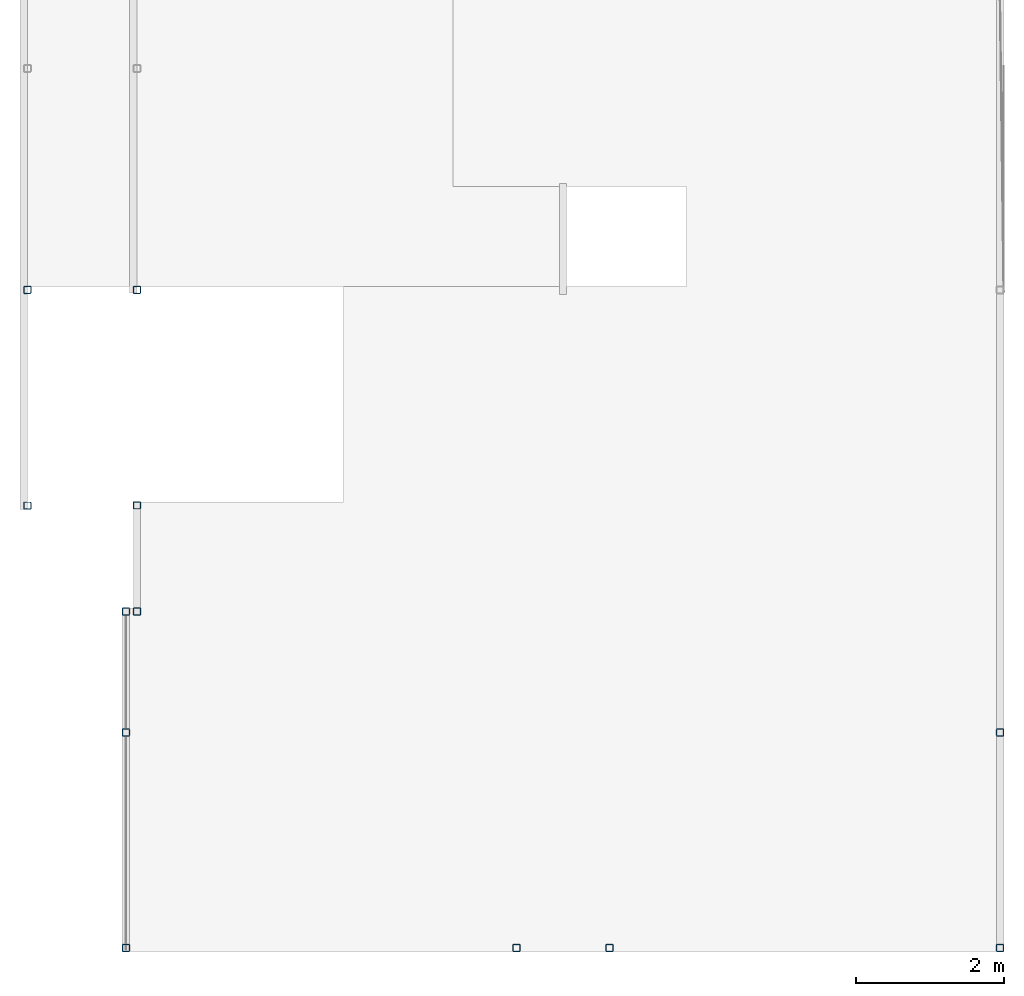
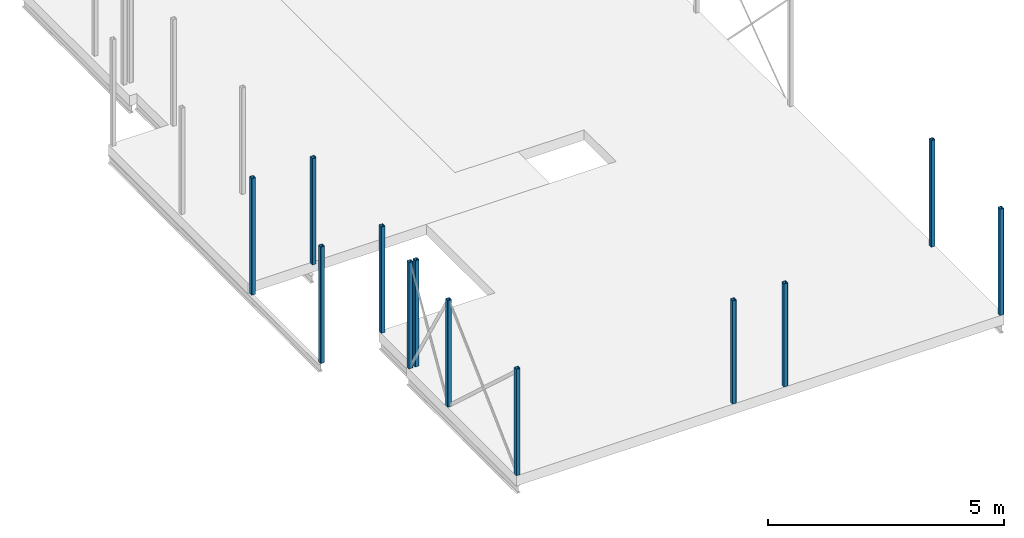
# One storey, part 1 of 4: 12 columns.
"""IFC2X3 building model written with IfcOpenShell, lengths in millimetres."""

import ifcopenshell
import ifcopenshell.guid

model = None  # the IFC model being written
_history = None  # IfcOwnerHistory: only IFC2X3 demands one
_inside = {}  # id of a spatial element -> (the spatial element, [elements in it])
_under = {}  # id of a project, library or spatial element -> (it, [spatial elements below it])
_declared = {}  # id of a project -> (the project, [libraries it declares])
_typed = {}  # id of a type object -> (the type object, [elements of that type])
_made_of = {}  # id of a material, layer set ... -> (it, [elements and type objects made of it])


def new_model(schema):
    """Start an empty IFC model of exactly this schema.

    Asked for "IFC4X3", IfcOpenShell would pick the latest addendum, in which some entities
    have other attributes; the version numbers below select the first issue.
    IFC2X3 requires an IfcOwnerHistory on every rooted entity: one is made here for all.
    """
    global model, _history
    if schema == "IFC4X3":
        model = ifcopenshell.file(schema_version=(4, 3, 0, 0))
    else:
        model = ifcopenshell.file(schema=schema)
    _inside.clear()
    _under.clear()
    _declared.clear()
    _typed.clear()
    _made_of.clear()
    _history = None
    if model.schema == "IFC2X3":
        org = make("IfcOrganization", Name="unknown")
        user = make(
            "IfcPersonAndOrganization",
            ThePerson=make("IfcPerson", FamilyName="unknown"),
            TheOrganization=org,
        )
        app = make(
            "IfcApplication",
            ApplicationDeveloper=org,
            Version="unknown",
            ApplicationFullName="unknown",
            ApplicationIdentifier="unknown",
        )
        _history = make(
            "IfcOwnerHistory",
            OwningUser=user,
            OwningApplication=app,
            ChangeAction="ADDED",
            CreationDate=0,
        )
    return model


def make(cls, **values):
    """One entity of the class cls with the attributes given. An attribute that is None is left unset."""
    return model.create_entity(
        cls, **{name: value for name, value in values.items() if value is not None}
    )


def entity(cls, *values):
    """Any entity or typed value of the class cls, its attributes in the order of the schema. None: left unset."""
    e = model.create_entity(cls)
    for i, value in enumerate(values):
        if value is not None:
            e[i] = value
    return e


def rooted(cls, **values):
    """An entity with a GlobalId (a new one), such as an element, a storey or a relation."""
    return make(cls, GlobalId=ifcopenshell.guid.new(), OwnerHistory=_history, **values)


def si_unit(unit_type, name, prefix=None):
    """IfcSIUnit, for example si_unit("LENGTHUNIT", "METRE", prefix="MILLI")."""
    return make("IfcSIUnit", UnitType=unit_type, Prefix=prefix, Name=name)


def converted_unit(unit_type, name, factor, base, dimensions=None, offset=None):
    """IfcConversionBasedUnit, such as the inch: factor (a typed value) times the base unit."""
    return make(
        "IfcConversionBasedUnit"
        if offset is None
        else "IfcConversionBasedUnitWithOffset",
        ConversionOffset=offset,
        Dimensions=None
        if dimensions is None
        else entity("IfcDimensionalExponents", *dimensions),
        UnitType=unit_type,
        Name=name,
        ConversionFactor=make(
            "IfcMeasureWithUnit", ValueComponent=factor, UnitComponent=base
        ),
    )


def derived_unit(unit_type, elements):
    """IfcDerivedUnit: a product of units, each with its exponent."""
    return make(
        "IfcDerivedUnit",
        Elements=[
            make("IfcDerivedUnitElement", Unit=unit, Exponent=power)
            for unit, power in elements
        ],
        UnitType=unit_type,
    )


def assignment(units):
    """IfcUnitAssignment: the units of a project."""
    return None if units is None else make("IfcUnitAssignment", Units=units)


def point(xyz):
    """IfcCartesianPoint."""
    return None if xyz is None else make("IfcCartesianPoint", Coordinates=xyz)


def direction(xyz):
    """IfcDirection."""
    return None if xyz is None else make("IfcDirection", DirectionRatios=xyz)


def frame(location, z_axis=None, x_axis=None):
    """IfcAxis2Placement3D, a coordinate frame: its origin and axes. An axis left out is left unset."""
    return make(
        "IfcAxis2Placement3D",
        Location=point(location),
        Axis=direction(z_axis),
        RefDirection=direction(x_axis),
    )


def frame_2d(location, x_axis=None):
    """IfcAxis2Placement2D, a coordinate frame in the plane: its origin and x axis."""
    return make(
        "IfcAxis2Placement2D", Location=point(location), RefDirection=direction(x_axis)
    )


def origin():
    """The frame at (0, 0, 0) with its axes left unset."""
    return frame((0.0, 0.0, 0.0))


def place(relative_to, where):
    """IfcLocalPlacement: puts the frame where relative to a parent placement (None: the world)."""
    return make(
        "IfcLocalPlacement", PlacementRelTo=relative_to, RelativePlacement=where
    )


def context(
    kind, dimensions, precision=None, world=None, true_north=None, identifier=None
):
    """IfcGeometricRepresentationContext, for example the 3D "Model" context."""
    return make(
        "IfcGeometricRepresentationContext",
        ContextIdentifier=identifier,
        ContextType=kind,
        CoordinateSpaceDimension=dimensions,
        Precision=precision,
        WorldCoordinateSystem=world,
        TrueNorth=true_north,
    )


def subcontext(parent, identifier, kind, view, scale=None):
    """IfcGeometricRepresentationSubContext, for example "Body" below "Model"."""
    return make(
        "IfcGeometricRepresentationSubContext",
        ContextIdentifier=identifier,
        ContextType=kind,
        ParentContext=parent,
        TargetScale=scale,
        TargetView=view,
    )


def project(units=None, contexts=None):
    """IfcProject with its units and contexts."""
    return rooted(
        "IfcProject",
        Name="project",
        RepresentationContexts=contexts,
        UnitsInContext=assignment(units),
    )


def spatial(cls, under=None, at=None, **own):
    """A site, building, storey or space (cls), placed at a placement, below another one or the project."""
    s = rooted(cls, ObjectPlacement=at, **own)
    if under is not None:
        _under.setdefault(under.id(), (under, []))[1].append(s)
    return s


def polyline(points):
    """IfcPolyline through the points."""
    return make("IfcPolyline", Points=[point(p) for p in points])


def circle_curve(where, radius):
    """IfcCircle in the frame where."""
    return make("IfcCircle", Position=where, Radius=radius)


def parameter(value):
    """IfcParameterValue: where a trimmed curve begins or ends, as a parameter of its basis curve."""
    return model.create_entity("IfcParameterValue", value)


def trimmed(basis, trim1, trim2, sense, master):
    """IfcTrimmedCurve: the piece of a basis curve between two trims."""
    return make(
        "IfcTrimmedCurve",
        BasisCurve=basis,
        Trim1=trim1,
        Trim2=trim2,
        SenseAgreement=sense,
        MasterRepresentation=master,
    )


def segment(curve, same_sense, transition):
    """IfcCompositeCurveSegment."""
    return make(
        "IfcCompositeCurveSegment",
        Transition=transition,
        SameSense=same_sense,
        ParentCurve=curve,
    )


def composite_curve(segments, self_intersect=None):
    """IfcCompositeCurve: segments joined end to end."""
    return make("IfcCompositeCurve", Segments=segments, SelfIntersect=self_intersect)


def outline(outer, holes=None, kind="AREA"):
    """IfcArbitraryClosedProfileDef: a profile drawn as a closed curve; with holes, ...WithVoids."""
    if holes is None:
        return make("IfcArbitraryClosedProfileDef", ProfileType=kind, OuterCurve=outer)
    return make(
        "IfcArbitraryProfileDefWithVoids",
        ProfileType=kind,
        OuterCurve=outer,
        InnerCurves=holes,
    )


def extrude(swept, where, along, depth):
    """IfcExtrudedAreaSolid: the profile swept, set in the frame where, extruded along a direction by depth."""
    return make(
        "IfcExtrudedAreaSolid",
        SweptArea=swept,
        Position=where,
        ExtrudedDirection=direction(along),
        Depth=depth,
    )


def shape(context_of_items, identifier, shape_type, items):
    """IfcShapeRepresentation: the items that make up one representation, for example the "Body"."""
    return make(
        "IfcShapeRepresentation",
        ContextOfItems=context_of_items,
        RepresentationIdentifier=identifier,
        RepresentationType=shape_type,
        Items=items,
    )


def source(mapping_origin, context_of_items, identifier, shape_type, items):
    """IfcRepresentationMap: a shape defined once, which mapped items show again and again."""
    return make(
        "IfcRepresentationMap",
        MappingOrigin=mapping_origin,
        MappedRepresentation=shape(context_of_items, identifier, shape_type, items),
    )


def transform(
    local_origin,
    x_axis=None,
    y_axis=None,
    z_axis=None,
    scale=None,
    scale2=None,
    scale3=None,
    uniform=True,
):
    """IfcCartesianTransformationOperator3D, or its non-uniform kind. x_axis, y_axis, z_axis: its Axis1, 2, 3."""
    if uniform:
        return make(
            "IfcCartesianTransformationOperator3D",
            Axis1=direction(x_axis),
            Axis2=direction(y_axis),
            LocalOrigin=point(local_origin),
            Scale=scale,
            Axis3=direction(z_axis),
        )
    return make(
        "IfcCartesianTransformationOperator3DnonUniform",
        Axis1=direction(x_axis),
        Axis2=direction(y_axis),
        LocalOrigin=point(local_origin),
        Scale=scale,
        Axis3=direction(z_axis),
        Scale2=scale2,
        Scale3=scale3,
    )


def mapped(mapping_source, mapping_target):
    """IfcMappedItem: shows the shape of a source again, moved by a transform."""
    return make(
        "IfcMappedItem", MappingSource=mapping_source, MappingTarget=mapping_target
    )


def material(Name=None, Category=None):
    """IfcMaterial."""
    return make("IfcMaterial", Name=Name, Category=Category)


def made_of(thing, what):
    """Note that an element or type object is made of a material, layer set ...; save() writes the relation."""
    if what is not None:
        _made_of.setdefault(what.id(), (what, []))[1].append(thing)
    return thing


def type_object(cls, material=None, **own):
    """A type object (cls), such as IfcWallType, which elements share."""
    return made_of(rooted(cls, **own), material)


def type_shapes(of_type, sources):
    """Give a type object the sources (RepresentationMaps) that its elements show as mapped items."""
    of_type.RepresentationMaps = sources


def element(
    cls,
    number,
    at=None,
    inside=None,
    cuts=None,
    type_object=None,
    material=None,
    context=None,
    identifier="Body",
    shape_type=None,
    held_by="IfcProductDefinitionShape",
    body=None,
    shapes=None,
    **own,
):
    """One element of the class cls, such as IfcWall. Its Tag is "e" and its number.

    at: its placement. inside: the storey or other place that contains it. cuts: it is an
    opening in that element (IfcRelVoidsElement). A single representation is given by context,
    identifier, shape_type and body (its items); several are given by shapes. held_by: the class
    of the entity that holds the representations. save() writes the other relations.
    """
    e = rooted(cls, Tag="e%d" % number, ObjectPlacement=at, **own)
    if body is not None:
        shapes = [shape(context, identifier, shape_type, body)]
    if shapes is not None:
        e.Representation = make(held_by, Representations=shapes)
    if inside is not None:
        _inside.setdefault(inside.id(), (inside, []))[1].append(e)
    if cuts is not None:
        rooted(
            "IfcRelVoidsElement", RelatingBuildingElement=cuts, RelatedOpeningElement=e
        )
    if type_object is not None:
        _typed.setdefault(type_object.id(), (type_object, []))[1].append(e)
    return made_of(e, material)


def aggregate(whole, parts):
    """IfcRelAggregates: a whole, such as a stair, and the parts it consists of."""
    return rooted("IfcRelAggregates", RelatingObject=whole, RelatedObjects=parts)


def save(model, path):
    """Write the relations noted so far, then the file.

    IfcRelAggregates (storeys below a building ...), IfcRelContainedInSpatialStructure (elements
    in a storey), IfcRelDefinesByType, IfcRelAssociatesMaterial and IfcRelDeclares: one each for
    every whole, place, type object, material and project.
    """
    for whole, parts in _under.values():
        aggregate(whole, parts)
    for where, things in _inside.values():
        rooted(
            "IfcRelContainedInSpatialStructure",
            RelatedElements=things,
            RelatingStructure=where,
        )
    for kind, things in _typed.values():
        rooted("IfcRelDefinesByType", RelatedObjects=things, RelatingType=kind)
    for what, things in _made_of.values():
        rooted("IfcRelAssociatesMaterial", RelatedObjects=things, RelatingMaterial=what)
    for by, libraries in _declared.values():
        rooted("IfcRelDeclares", RelatingContext=by, RelatedDefinitions=libraries)
    model.write(path)


model = new_model("IFC2X3")

# Units and contexts
model_context = context("Model", 3, precision=0.01, world=origin(), true_north=direction((6.12303176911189e-17, 1.0)))
body_context = subcontext(model_context, "Body", "Model", "MODEL_VIEW")
ifc_project = project(units=[si_unit("LENGTHUNIT", "METRE", prefix="MILLI"), si_unit("AREAUNIT", "SQUARE_METRE"), si_unit("VOLUMEUNIT", "CUBIC_METRE"), converted_unit("PLANEANGLEUNIT", "DEGREE", entity("IfcRatioMeasure", 0.0174532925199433), si_unit("PLANEANGLEUNIT", "RADIAN"), dimensions=[0, 0, 0, 0, 0, 0, 0]), si_unit("MASSUNIT", "GRAM", prefix="KILO"), derived_unit("MASSDENSITYUNIT", [(si_unit("MASSUNIT", "GRAM", prefix="KILO"), 1), (si_unit("LENGTHUNIT", "METRE"), -3)]), si_unit("TIMEUNIT", "SECOND"), si_unit("FREQUENCYUNIT", "HERTZ"), si_unit("THERMODYNAMICTEMPERATUREUNIT", "DEGREE_CELSIUS"), derived_unit("THERMALTRANSMITTANCEUNIT", [(si_unit("MASSUNIT", "GRAM", prefix="KILO"), 1), (si_unit("THERMODYNAMICTEMPERATUREUNIT", "KELVIN"), -1), (si_unit("TIMEUNIT", "SECOND"), -3)]), derived_unit("VOLUMETRICFLOWRATEUNIT", [(si_unit("LENGTHUNIT", "METRE"), 3), (si_unit("TIMEUNIT", "SECOND"), -1)]), si_unit("ELECTRICCURRENTUNIT", "AMPERE"), si_unit("ELECTRICVOLTAGEUNIT", "VOLT"), si_unit("POWERUNIT", "WATT"), si_unit("FORCEUNIT", "NEWTON", prefix="KILO"), si_unit("ILLUMINANCEUNIT", "LUX"), si_unit("LUMINOUSFLUXUNIT", "LUMEN"), si_unit("LUMINOUSINTENSITYUNIT", "CANDELA"), derived_unit("USERDEFINED", [(si_unit("MASSUNIT", "GRAM", prefix="KILO"), -1), (si_unit("LENGTHUNIT", "METRE"), -2), (si_unit("TIMEUNIT", "SECOND"), 3), (si_unit("LUMINOUSFLUXUNIT", "LUMEN"), 1)]), derived_unit("LINEARVELOCITYUNIT", [(si_unit("LENGTHUNIT", "METRE"), 1), (si_unit("TIMEUNIT", "SECOND"), -1)]), si_unit("PRESSUREUNIT", "PASCAL"), derived_unit("USERDEFINED", [(si_unit("LENGTHUNIT", "METRE"), -2), (si_unit("MASSUNIT", "GRAM", prefix="KILO"), 1), (si_unit("TIMEUNIT", "SECOND"), -2)])], contexts=[model_context])

# Site, building, storey
site_placement = place(None, frame((0.0, 0.0, 101000.0)))
site = spatial("IfcSite", under=ifc_project, at=site_placement, Name="Default", CompositionType="ELEMENT")
building_placement = place(site_placement, origin())
building = spatial("IfcBuilding", under=site, at=building_placement, CompositionType="ELEMENT")
storey_placement = place(building_placement, frame((0.0, 0.0, 3150.0)))
storey = spatial("IfcBuildingStorey", under=building, at=storey_placement, Name="02", CompositionType="ELEMENT", Elevation=3149.9999999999)

# Columns
ifc_material = material(Name="S355")
column_type_1 = type_object("IfcColumnType", Name="HUP 100x100x6.3", PredefinedType="COLUMN", material=ifc_material)
shared_shape_1 = source(origin(), body_context, "Body", "SweptSolid", [
    extrude(outline(composite_curve([segment(polyline([(-37.4000000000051, -50.0), (37.4000000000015, -50.0)]), True, "CONTINUOUS"), segment(trimmed(circle_curve(frame_2d((37.4000000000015, -37.3999999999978), x_axis=(-1.0, 0.0)), 12.6000000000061), [parameter(90.0000000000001)], [parameter(180.0)], True, "PARAMETER"), True, "CONTINUOUS"), segment(polyline([(50.0, -37.4000000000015), (50.0, 37.3999999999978)]), True, "CONTINUOUS"), segment(trimmed(circle_curve(frame_2d((37.4000000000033, 37.3999999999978), x_axis=(-1.0, 0.0)), 12.6000000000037), [parameter(180.0)], [parameter(270.0)], True, "PARAMETER"), True, "CONTINUOUS"), segment(polyline([(37.4000000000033, 50.0), (-37.4000000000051, 50.0)]), True, "CONTINUOUS"), segment(trimmed(circle_curve(frame_2d((-37.4000000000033, 37.4000000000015), x_axis=(-1.0, 0.0)), 12.6000000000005), [parameter(270.0)], [parameter(360.0)], True, "PARAMETER"), True, "CONTINUOUS"), segment(polyline([(-50.0, 37.3999999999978), (-50.0, -37.4000000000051)]), True, "CONTINUOUS"), segment(trimmed(circle_curve(frame_2d((-37.4000000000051, -37.4000000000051), x_axis=(-1.0, 0.0)), 12.5999999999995), [parameter(360.0)], [parameter(89.9999999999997)], True, "PARAMETER"), True, "CONTINUOUS")], self_intersect=False), holes=[composite_curve([segment(trimmed(circle_curve(frame_2d((-37.4000000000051, -37.4000000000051), x_axis=(-1.0, 0.0)), 6.2999999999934), [parameter(0.0)], [parameter(90.0)], True, "PARAMETER"), False, "CONTINUOUS"), segment(polyline([(-43.7000000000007, -37.4000000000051), (-43.7000000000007, 37.4000000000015)]), True, "CONTINUOUS"), segment(trimmed(circle_curve(frame_2d((-37.4000000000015, 37.4000000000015), x_axis=(-1.0, 0.0)), 6.29999999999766), [parameter(270.0)], [parameter(360.0)], True, "PARAMETER"), False, "CONTINUOUS"), segment(polyline([(-37.4000000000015, 43.6999999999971), (37.3999999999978, 43.6999999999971)]), True, "CONTINUOUS"), segment(trimmed(circle_curve(frame_2d((37.3999999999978, 37.3999999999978), x_axis=(-1.0, 0.0)), 6.30000000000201), [parameter(180.0)], [parameter(270.0)], True, "PARAMETER"), False, "CONTINUOUS"), segment(polyline([(43.7000000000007, 37.3999999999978), (43.7000000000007, -37.4000000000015)]), True, "CONTINUOUS"), segment(trimmed(circle_curve(frame_2d((37.4000000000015, -37.3999999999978), x_axis=(-1.0, 0.0)), 6.30000000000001), [parameter(90.0000000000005)], [parameter(180.0)], True, "PARAMETER"), False, "CONTINUOUS"), segment(polyline([(37.4000000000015, -43.7000000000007), (-37.4000000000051, -43.7000000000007)]), True, "CONTINUOUS")], self_intersect=False)]), frame((11261.2644969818, 23497.9507529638, 3150.0), z_axis=(0.0, 0.0, 1.0), x_axis=(-1.0, 0.0, 0.0)), (0.0, 0.0, 1.0), 2755.0),
])
type_shapes(column_type_1, [shared_shape_1])
column_1_placement = place(storey_placement, frame((0.0, 0.0, -3150.0)))
element("IfcColumn", 1, at=column_1_placement, inside=storey, type_object=column_type_1, material=ifc_material, Name="Søyle HUP:HUP 100x100x6.3", ObjectType="HUP 100x100x6.3", context=body_context, shape_type="MappedRepresentation", body=[
    mapped(shared_shape_1, transform((0.0, 0.0, 0.0), scale=1.0)),
])
column_type_2 = type_object("IfcColumnType", Name="HUP 100x100x6.3", PredefinedType="COLUMN", material=ifc_material)
shared_shape_2 = source(origin(), body_context, "Body", "SweptSolid", [
    extrude(outline(composite_curve([segment(polyline([(-37.4000000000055, -50.0), (37.4000000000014, -50.0)]), True, "CONTINUOUS"), segment(trimmed(circle_curve(frame_2d((37.4000000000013, -37.3999999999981), x_axis=(-1.0, 0.0)), 12.6000000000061), [parameter(90.0000000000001)], [parameter(180.0)], True, "PARAMETER"), True, "CONTINUOUS"), segment(polyline([(50.0, -37.3999999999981), (50.0, 37.4000000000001)]), True, "CONTINUOUS"), segment(trimmed(circle_curve(frame_2d((37.4000000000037, 37.4000000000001), x_axis=(-1.0, 0.0)), 12.6000000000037), [parameter(180.0)], [parameter(270.0)], True, "PARAMETER"), True, "CONTINUOUS"), segment(polyline([(37.4000000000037, 50.0), (-37.4000000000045, 50.0)]), True, "CONTINUOUS"), segment(trimmed(circle_curve(frame_2d((-37.4000000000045, 37.4000000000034), x_axis=(-1.0, 0.0)), 12.6000000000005), [parameter(270.0)], [parameter(360.0)], True, "PARAMETER"), True, "CONTINUOUS"), segment(polyline([(-50.0, 37.4000000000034), (-50.0, -37.4000000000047)]), True, "CONTINUOUS"), segment(trimmed(circle_curve(frame_2d((-37.4000000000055, -37.4000000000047), x_axis=(-1.0, 0.0)), 12.5999999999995), [parameter(360.0)], [parameter(89.9999999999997)], True, "PARAMETER"), True, "CONTINUOUS")], self_intersect=False), holes=[composite_curve([segment(trimmed(circle_curve(frame_2d((-37.4000000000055, -37.4000000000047), x_axis=(-1.0, 0.0)), 6.2999999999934), [parameter(0.0)], [parameter(90.0)], True, "PARAMETER"), False, "CONTINUOUS"), segment(polyline([(-43.6999999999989, -37.4000000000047), (-43.6999999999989, 37.4000000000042)]), True, "CONTINUOUS"), segment(trimmed(circle_curve(frame_2d((-37.4000000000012, 37.4000000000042), x_axis=(-1.0, 0.0)), 6.29999999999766), [parameter(270.0)], [parameter(360.0)], True, "PARAMETER"), False, "CONTINUOUS"), segment(polyline([(-37.4000000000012, 43.7000000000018), (37.3999999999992, 43.7000000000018)]), True, "CONTINUOUS"), segment(trimmed(circle_curve(frame_2d((37.3999999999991, 37.3999999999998), x_axis=(-1.0, 0.0)), 6.30000000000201), [parameter(180.0)], [parameter(270.0)], True, "PARAMETER"), False, "CONTINUOUS"), segment(polyline([(43.7000000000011, 37.3999999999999), (43.7000000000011, -37.3999999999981)]), True, "CONTINUOUS"), segment(trimmed(circle_curve(frame_2d((37.4000000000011, -37.3999999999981), x_axis=(-1.0, 0.0)), 6.30000000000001), [parameter(90.0000000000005)], [parameter(180.0)], True, "PARAMETER"), False, "CONTINUOUS"), segment(polyline([(37.4000000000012, -43.6999999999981), (-37.4000000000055, -43.6999999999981)]), True, "CONTINUOUS")], self_intersect=False)]), frame((0.0, 0.0, 3150.0), z_axis=(0.0, 0.0, 1.0), x_axis=(-1.0, 0.0, 0.0)), (0.0, 0.0, 1.0), 2765.0),
])
type_shapes(column_type_2, [shared_shape_2])
column_2_placement = place(storey_placement, frame((11261.2644969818, 26417.9507529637, -3150.0)))
element("IfcColumn", 2, at=column_2_placement, inside=storey, type_object=column_type_2, material=ifc_material, Name="Søyle HUP:HUP 100x100x6.3", ObjectType="HUP 100x100x6.3", context=body_context, shape_type="MappedRepresentation", body=[
    mapped(shared_shape_2, transform((0.0, 0.0, 0.0), scale=1.0)),
])
column_type_3 = type_object("IfcColumnType", Name="HUP 100x100x6.3", PredefinedType="COLUMN", material=ifc_material)
shared_shape_3 = source(origin(), body_context, "Body", "SweptSolid", [
    extrude(outline(composite_curve([segment(polyline([(-37.4000000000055, -50.0), (37.4000000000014, -50.0)]), True, "CONTINUOUS"), segment(trimmed(circle_curve(frame_2d((37.4000000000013, -37.3999999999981), x_axis=(-1.0, 0.0)), 12.6000000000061), [parameter(90.0000000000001)], [parameter(180.0)], True, "PARAMETER"), True, "CONTINUOUS"), segment(polyline([(50.0, -37.3999999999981), (50.0, 37.4000000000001)]), True, "CONTINUOUS"), segment(trimmed(circle_curve(frame_2d((37.4000000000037, 37.4000000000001), x_axis=(-1.0, 0.0)), 12.6000000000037), [parameter(180.0)], [parameter(270.0)], True, "PARAMETER"), True, "CONTINUOUS"), segment(polyline([(37.4000000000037, 50.0), (-37.4000000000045, 50.0)]), True, "CONTINUOUS"), segment(trimmed(circle_curve(frame_2d((-37.4000000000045, 37.4000000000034), x_axis=(-1.0, 0.0)), 12.6000000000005), [parameter(270.0)], [parameter(360.0)], True, "PARAMETER"), True, "CONTINUOUS"), segment(polyline([(-50.0, 37.4000000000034), (-50.0, -37.4000000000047)]), True, "CONTINUOUS"), segment(trimmed(circle_curve(frame_2d((-37.4000000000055, -37.4000000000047), x_axis=(-1.0, 0.0)), 12.5999999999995), [parameter(360.0)], [parameter(89.9999999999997)], True, "PARAMETER"), True, "CONTINUOUS")], self_intersect=False), holes=[composite_curve([segment(trimmed(circle_curve(frame_2d((-37.4000000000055, -37.4000000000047), x_axis=(-1.0, 0.0)), 6.2999999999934), [parameter(0.0)], [parameter(90.0)], True, "PARAMETER"), False, "CONTINUOUS"), segment(polyline([(-43.6999999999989, -37.4000000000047), (-43.6999999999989, 37.4000000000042)]), True, "CONTINUOUS"), segment(trimmed(circle_curve(frame_2d((-37.4000000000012, 37.4000000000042), x_axis=(-1.0, 0.0)), 6.29999999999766), [parameter(270.0)], [parameter(360.0)], True, "PARAMETER"), False, "CONTINUOUS"), segment(polyline([(-37.4000000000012, 43.7000000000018), (37.3999999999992, 43.7000000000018)]), True, "CONTINUOUS"), segment(trimmed(circle_curve(frame_2d((37.3999999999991, 37.3999999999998), x_axis=(-1.0, 0.0)), 6.30000000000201), [parameter(180.0)], [parameter(270.0)], True, "PARAMETER"), False, "CONTINUOUS"), segment(polyline([(43.7000000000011, 37.3999999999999), (43.7000000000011, -37.3999999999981)]), True, "CONTINUOUS"), segment(trimmed(circle_curve(frame_2d((37.4000000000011, -37.3999999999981), x_axis=(-1.0, 0.0)), 6.30000000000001), [parameter(90.0000000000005)], [parameter(180.0)], True, "PARAMETER"), False, "CONTINUOUS"), segment(polyline([(37.4000000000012, -43.6999999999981), (-37.4000000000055, -43.6999999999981)]), True, "CONTINUOUS")], self_intersect=False)]), frame((0.0, 0.0, 3150.0), z_axis=(0.0, 0.0, 1.0), x_axis=(-1.0, 0.0, 0.0)), (0.0, 0.0, 1.0), 2755.0),
])
type_shapes(column_type_3, [shared_shape_3])
for number, where, name in (
    (3, (11261.2644969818, 28058.4336358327, -3150.0), "Søyle HUP:HUP 100x100x6.3"),
    (4, (11411.2644969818, 28058.4336358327, -3150.0), "Søyle HUP:HUP 100x100x6.3"),
    (5, (11411.2644969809, 32417.9507529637, -3150.0), "Søyle HUP:HUP 100x100x6.3"),
    (6, (11411.2644969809, 29497.9507529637, -3150.0), "Søyle HUP:HUP 100x100x6.3"),
):
    element("IfcColumn", number, at=place(storey_placement, frame(where)), inside=storey, type_object=column_type_3, material=ifc_material, Name=name, ObjectType="HUP 100x100x6.3", context=body_context, shape_type="MappedRepresentation", body=[
        mapped(shared_shape_3, transform((0.0, 0.0, 0.0), scale=1.0)),
    ])
column_type_4 = type_object("IfcColumnType", Name="HUP 100x100x6.3", PredefinedType="COLUMN", material=ifc_material)
shared_shape_4 = source(origin(), body_context, "Body", "SweptSolid", [
    extrude(outline(composite_curve([segment(polyline([(-37.4000000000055, -50.0), (37.4000000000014, -50.0)]), True, "CONTINUOUS"), segment(trimmed(circle_curve(frame_2d((37.4000000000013, -37.3999999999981), x_axis=(-1.0, 0.0)), 12.6000000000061), [parameter(90.0000000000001)], [parameter(180.0)], True, "PARAMETER"), True, "CONTINUOUS"), segment(polyline([(50.0, -37.3999999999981), (50.0, 37.4000000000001)]), True, "CONTINUOUS"), segment(trimmed(circle_curve(frame_2d((37.4000000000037, 37.4000000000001), x_axis=(-1.0, 0.0)), 12.6000000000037), [parameter(180.0)], [parameter(270.0)], True, "PARAMETER"), True, "CONTINUOUS"), segment(polyline([(37.4000000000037, 50.0), (-37.4000000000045, 50.0)]), True, "CONTINUOUS"), segment(trimmed(circle_curve(frame_2d((-37.4000000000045, 37.4000000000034), x_axis=(-1.0, 0.0)), 12.6000000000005), [parameter(270.0)], [parameter(360.0)], True, "PARAMETER"), True, "CONTINUOUS"), segment(polyline([(-50.0, 37.4000000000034), (-50.0, -37.4000000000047)]), True, "CONTINUOUS"), segment(trimmed(circle_curve(frame_2d((-37.4000000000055, -37.4000000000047), x_axis=(-1.0, 0.0)), 12.5999999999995), [parameter(360.0)], [parameter(89.9999999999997)], True, "PARAMETER"), True, "CONTINUOUS")], self_intersect=False), holes=[composite_curve([segment(trimmed(circle_curve(frame_2d((-37.4000000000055, -37.4000000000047), x_axis=(-1.0, 0.0)), 6.2999999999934), [parameter(0.0)], [parameter(90.0)], True, "PARAMETER"), False, "CONTINUOUS"), segment(polyline([(-43.6999999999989, -37.4000000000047), (-43.6999999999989, 37.4000000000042)]), True, "CONTINUOUS"), segment(trimmed(circle_curve(frame_2d((-37.4000000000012, 37.4000000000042), x_axis=(-1.0, 0.0)), 6.29999999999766), [parameter(270.0)], [parameter(360.0)], True, "PARAMETER"), False, "CONTINUOUS"), segment(polyline([(-37.4000000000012, 43.7000000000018), (37.3999999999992, 43.7000000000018)]), True, "CONTINUOUS"), segment(trimmed(circle_curve(frame_2d((37.3999999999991, 37.3999999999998), x_axis=(-1.0, 0.0)), 6.30000000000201), [parameter(180.0)], [parameter(270.0)], True, "PARAMETER"), False, "CONTINUOUS"), segment(polyline([(43.7000000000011, 37.3999999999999), (43.7000000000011, -37.3999999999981)]), True, "CONTINUOUS"), segment(trimmed(circle_curve(frame_2d((37.4000000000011, -37.3999999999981), x_axis=(-1.0, 0.0)), 6.30000000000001), [parameter(90.0000000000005)], [parameter(180.0)], True, "PARAMETER"), False, "CONTINUOUS"), segment(polyline([(37.4000000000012, -43.6999999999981), (-37.4000000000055, -43.6999999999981)]), True, "CONTINUOUS")], self_intersect=False)]), frame((0.0, 0.0, 3150.0), z_axis=(0.0, 0.0, 1.0), x_axis=(-1.0, 0.0, 0.0)), (0.0, 0.0, 1.0), 2675.0),
])
type_shapes(column_type_4, [shared_shape_4])
for number, where, name in (
    (7, (16555.2902080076, 23497.9507529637, -3150.0), "Søyle HUP:HUP 100x100x6.3"),
    (8, (17817.2389636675, 23497.9507529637, -3150.0), "Søyle HUP:HUP 100x100x6.3"),
):
    element("IfcColumn", number, at=place(storey_placement, frame(where)), inside=storey, type_object=column_type_4, material=ifc_material, Name=name, ObjectType="HUP 100x100x6.3", context=body_context, shape_type="MappedRepresentation", body=[
        mapped(shared_shape_4, transform((0.0, 0.0, 0.0), scale=1.0)),
    ])
column_type_5 = type_object("IfcColumnType", Name="HUP 100x100x6.3", PredefinedType="COLUMN", material=ifc_material)
shared_shape_5 = source(origin(), body_context, "Body", "SweptSolid", [
    extrude(outline(composite_curve([segment(polyline([(-37.3999999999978, -50.0), (37.4000000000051, -50.0)]), True, "CONTINUOUS"), segment(trimmed(circle_curve(frame_2d((37.4000000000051, -37.3999999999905), x_axis=(-1.0, 0.0)), 12.6000000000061), [parameter(90.0000000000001)], [parameter(180.0)], True, "PARAMETER"), True, "CONTINUOUS"), segment(polyline([(50.0, -37.3999999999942), (50.0, 37.4000000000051)]), True, "CONTINUOUS"), segment(trimmed(circle_curve(frame_2d((37.4000000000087, 37.4000000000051), x_axis=(-1.0, 0.0)), 12.6000000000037), [parameter(180.0)], [parameter(270.0)], True, "PARAMETER"), True, "CONTINUOUS"), segment(polyline([(37.4000000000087, 50.0), (-37.3999999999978, 50.0)]), True, "CONTINUOUS"), segment(trimmed(circle_curve(frame_2d((-37.3999999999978, 37.4000000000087), x_axis=(-1.0, 0.0)), 12.6000000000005), [parameter(270.0)], [parameter(360.0)], True, "PARAMETER"), True, "CONTINUOUS"), segment(polyline([(-50.0, 37.4000000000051), (-50.0, -37.4000000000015)]), True, "CONTINUOUS"), segment(trimmed(circle_curve(frame_2d((-37.3999999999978, -37.4000000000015), x_axis=(-1.0, 0.0)), 12.5999999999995), [parameter(360.0)], [parameter(89.9999999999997)], True, "PARAMETER"), True, "CONTINUOUS")], self_intersect=False), holes=[composite_curve([segment(trimmed(circle_curve(frame_2d((-37.3999999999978, -37.4000000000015), x_axis=(-1.0, 0.0)), 6.2999999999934), [parameter(0.0)], [parameter(90.0)], True, "PARAMETER"), False, "CONTINUOUS"), segment(polyline([(-43.6999999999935, -37.4000000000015), (-43.6999999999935, 37.4000000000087)]), True, "CONTINUOUS"), segment(trimmed(circle_curve(frame_2d((-37.3999999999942, 37.4000000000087), x_axis=(-1.0, 0.0)), 6.29999999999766), [parameter(270.0)], [parameter(360.0)], True, "PARAMETER"), False, "CONTINUOUS"), segment(polyline([(-37.3999999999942, 43.7000000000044), (37.4000000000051, 43.7000000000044)]), True, "CONTINUOUS"), segment(trimmed(circle_curve(frame_2d((37.4000000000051, 37.4000000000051), x_axis=(-1.0, 0.0)), 6.30000000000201), [parameter(180.0)], [parameter(270.0)], True, "PARAMETER"), False, "CONTINUOUS"), segment(polyline([(43.7000000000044, 37.4000000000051), (43.7000000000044, -37.3999999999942)]), True, "CONTINUOUS"), segment(trimmed(circle_curve(frame_2d((37.4000000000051, -37.3999999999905), x_axis=(-1.0, 0.0)), 6.30000000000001), [parameter(90.0000000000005)], [parameter(180.0)], True, "PARAMETER"), False, "CONTINUOUS"), segment(polyline([(37.4000000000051, -43.6999999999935), (-37.3999999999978, -43.6999999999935)]), True, "CONTINUOUS")], self_intersect=False)]), frame((23111.2644969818, 23497.9507529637, 3150.0), z_axis=(0.0, 0.0, 1.0), x_axis=(-1.0, 0.0, 0.0)), (0.0, 0.0, 1.0), 2755.0),
])
type_shapes(column_type_5, [shared_shape_5])
column_3_placement = place(storey_placement, frame((0.0, 0.0, -3150.0)))
element("IfcColumn", 9, at=column_3_placement, inside=storey, type_object=column_type_5, material=ifc_material, Name="Søyle HUP:HUP 100x100x6.3", ObjectType="HUP 100x100x6.3", context=body_context, shape_type="MappedRepresentation", body=[
    mapped(shared_shape_5, transform((0.0, 0.0, 0.0), scale=1.0)),
])
column_type_6 = type_object("IfcColumnType", Name="HUP 100x100x6.3", PredefinedType="COLUMN", material=ifc_material)
shared_shape_6 = source(origin(), body_context, "Body", "SweptSolid", [
    extrude(outline(composite_curve([segment(polyline([(-37.4000000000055, -50.0), (37.4000000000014, -50.0)]), True, "CONTINUOUS"), segment(trimmed(circle_curve(frame_2d((37.4000000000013, -37.3999999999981), x_axis=(-1.0, 0.0)), 12.6000000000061), [parameter(90.0000000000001)], [parameter(180.0)], True, "PARAMETER"), True, "CONTINUOUS"), segment(polyline([(50.0, -37.3999999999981), (50.0, 37.4000000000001)]), True, "CONTINUOUS"), segment(trimmed(circle_curve(frame_2d((37.4000000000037, 37.4000000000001), x_axis=(-1.0, 0.0)), 12.6000000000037), [parameter(180.0)], [parameter(270.0)], True, "PARAMETER"), True, "CONTINUOUS"), segment(polyline([(37.4000000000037, 50.0), (-37.4000000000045, 50.0)]), True, "CONTINUOUS"), segment(trimmed(circle_curve(frame_2d((-37.4000000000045, 37.4000000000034), x_axis=(-1.0, 0.0)), 12.6000000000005), [parameter(270.0)], [parameter(360.0)], True, "PARAMETER"), True, "CONTINUOUS"), segment(polyline([(-50.0, 37.4000000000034), (-50.0, -37.4000000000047)]), True, "CONTINUOUS"), segment(trimmed(circle_curve(frame_2d((-37.4000000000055, -37.4000000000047), x_axis=(-1.0, 0.0)), 12.5999999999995), [parameter(360.0)], [parameter(89.9999999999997)], True, "PARAMETER"), True, "CONTINUOUS")], self_intersect=False), holes=[composite_curve([segment(trimmed(circle_curve(frame_2d((-37.4000000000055, -37.4000000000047), x_axis=(-1.0, 0.0)), 6.2999999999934), [parameter(0.0)], [parameter(90.0)], True, "PARAMETER"), False, "CONTINUOUS"), segment(polyline([(-43.6999999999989, -37.4000000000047), (-43.6999999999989, 37.4000000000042)]), True, "CONTINUOUS"), segment(trimmed(circle_curve(frame_2d((-37.4000000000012, 37.4000000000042), x_axis=(-1.0, 0.0)), 6.29999999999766), [parameter(270.0)], [parameter(360.0)], True, "PARAMETER"), False, "CONTINUOUS"), segment(polyline([(-37.4000000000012, 43.7000000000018), (37.3999999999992, 43.7000000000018)]), True, "CONTINUOUS"), segment(trimmed(circle_curve(frame_2d((37.3999999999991, 37.3999999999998), x_axis=(-1.0, 0.0)), 6.30000000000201), [parameter(180.0)], [parameter(270.0)], True, "PARAMETER"), False, "CONTINUOUS"), segment(polyline([(43.7000000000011, 37.3999999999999), (43.7000000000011, -37.3999999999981)]), True, "CONTINUOUS"), segment(trimmed(circle_curve(frame_2d((37.4000000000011, -37.3999999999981), x_axis=(-1.0, 0.0)), 6.30000000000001), [parameter(90.0000000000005)], [parameter(180.0)], True, "PARAMETER"), False, "CONTINUOUS"), segment(polyline([(37.4000000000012, -43.6999999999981), (-37.4000000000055, -43.6999999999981)]), True, "CONTINUOUS")], self_intersect=False)]), frame((0.0, 0.0, 3150.0), z_axis=(0.0, 0.0, 1.0), x_axis=(-1.0, 0.0, 0.0)), (0.0, 0.0, 1.0), 2761.0),
])
type_shapes(column_type_6, [shared_shape_6])
column_4_placement = place(storey_placement, frame((23111.2644969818, 26417.9507529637, -3150.0)))
element("IfcColumn", 10, at=column_4_placement, inside=storey, type_object=column_type_6, material=ifc_material, Name="Søyle HUP:HUP 100x100x6.3", ObjectType="HUP 100x100x6.3", context=body_context, shape_type="MappedRepresentation", body=[
    mapped(shared_shape_6, transform((0.0, 0.0, 0.0), scale=1.0)),
])
column_type_7 = type_object("IfcColumnType", Name="HUP 100x100x6.3", PredefinedType="COLUMN", material=ifc_material)
shared_shape_7 = source(origin(), body_context, "Body", "SweptSolid", [
    extrude(outline(composite_curve([segment(polyline([(-37.4000000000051, -50.0), (37.4000000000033, -50.0)]), True, "CONTINUOUS"), segment(trimmed(circle_curve(frame_2d((37.4000000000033, -37.3999999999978), x_axis=(-1.0, 0.0)), 12.6000000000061), [parameter(90.0000000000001)], [parameter(180.0)], True, "PARAMETER"), True, "CONTINUOUS"), segment(polyline([(50.0, -37.4000000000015), (50.0, 37.3999999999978)]), True, "CONTINUOUS"), segment(trimmed(circle_curve(frame_2d((37.4000000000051, 37.3999999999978), x_axis=(-1.0, 0.0)), 12.6000000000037), [parameter(180.0)], [parameter(270.0)], True, "PARAMETER"), True, "CONTINUOUS"), segment(polyline([(37.4000000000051, 50.0), (-37.4000000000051, 50.0)]), True, "CONTINUOUS"), segment(trimmed(circle_curve(frame_2d((-37.4000000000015, 37.4000000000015), x_axis=(-1.0, 0.0)), 12.6000000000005), [parameter(270.0)], [parameter(360.0)], True, "PARAMETER"), True, "CONTINUOUS"), segment(polyline([(-50.0, 37.3999999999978), (-50.0, -37.4000000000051)]), True, "CONTINUOUS"), segment(trimmed(circle_curve(frame_2d((-37.4000000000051, -37.4000000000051), x_axis=(-1.0, 0.0)), 12.5999999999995), [parameter(360.0)], [parameter(89.9999999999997)], True, "PARAMETER"), True, "CONTINUOUS")], self_intersect=False), holes=[composite_curve([segment(trimmed(circle_curve(frame_2d((-37.4000000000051, -37.4000000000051), x_axis=(-1.0, 0.0)), 6.2999999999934), [parameter(0.0)], [parameter(90.0)], True, "PARAMETER"), False, "CONTINUOUS"), segment(polyline([(-43.6999999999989, -37.4000000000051), (-43.6999999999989, 37.4000000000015)]), True, "CONTINUOUS"), segment(trimmed(circle_curve(frame_2d((-37.3999999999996, 37.4000000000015), x_axis=(-1.0, 0.0)), 6.29999999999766), [parameter(270.0)], [parameter(360.0)], True, "PARAMETER"), False, "CONTINUOUS"), segment(polyline([(-37.3999999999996, 43.6999999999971), (37.3999999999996, 43.6999999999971)]), True, "CONTINUOUS"), segment(trimmed(circle_curve(frame_2d((37.3999999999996, 37.3999999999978), x_axis=(-1.0, 0.0)), 6.30000000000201), [parameter(180.0)], [parameter(270.0)], True, "PARAMETER"), False, "CONTINUOUS"), segment(polyline([(43.7000000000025, 37.3999999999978), (43.7000000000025, -37.4000000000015)]), True, "CONTINUOUS"), segment(trimmed(circle_curve(frame_2d((37.4000000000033, -37.3999999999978), x_axis=(-1.0, 0.0)), 6.30000000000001), [parameter(90.0000000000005)], [parameter(180.0)], True, "PARAMETER"), False, "CONTINUOUS"), segment(polyline([(37.4000000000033, -43.7000000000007), (-37.4000000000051, -43.7000000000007)]), True, "CONTINUOUS")], self_intersect=False)]), frame((9926.26449698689, 32417.9507529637, 2885.0), z_axis=(0.0, 0.0, 1.0), x_axis=(-1.0, 0.0, 0.0)), (0.0, 0.0, 1.0), 3020.00000000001),
])
type_shapes(column_type_7, [shared_shape_7])
column_5_placement = place(storey_placement, frame((0.0, 0.0, -3150.0)))
element("IfcColumn", 11, at=column_5_placement, inside=storey, type_object=column_type_7, material=ifc_material, Name="Søyle HUP:HUP 100x100x6.3", ObjectType="HUP 100x100x6.3", context=body_context, shape_type="MappedRepresentation", body=[
    mapped(shared_shape_7, transform((0.0, 0.0, 0.0), scale=1.0)),
])
column_type_8 = type_object("IfcColumnType", Name="HUP 100x100x6.3", PredefinedType="COLUMN", material=ifc_material)
shared_shape_8 = source(origin(), body_context, "Body", "SweptSolid", [
    extrude(outline(composite_curve([segment(polyline([(-37.4000000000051, -50.0), (37.4000000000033, -50.0)]), True, "CONTINUOUS"), segment(trimmed(circle_curve(frame_2d((37.4000000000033, -37.3999999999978), x_axis=(-1.0, 0.0)), 12.6000000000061), [parameter(90.0000000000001)], [parameter(180.0)], True, "PARAMETER"), True, "CONTINUOUS"), segment(polyline([(50.0, -37.4000000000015), (50.0, 37.3999999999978)]), True, "CONTINUOUS"), segment(trimmed(circle_curve(frame_2d((37.4000000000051, 37.3999999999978), x_axis=(-1.0, 0.0)), 12.6000000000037), [parameter(180.0)], [parameter(270.0)], True, "PARAMETER"), True, "CONTINUOUS"), segment(polyline([(37.4000000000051, 50.0), (-37.4000000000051, 50.0)]), True, "CONTINUOUS"), segment(trimmed(circle_curve(frame_2d((-37.4000000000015, 37.4000000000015), x_axis=(-1.0, 0.0)), 12.6000000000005), [parameter(270.0)], [parameter(360.0)], True, "PARAMETER"), True, "CONTINUOUS"), segment(polyline([(-50.0, 37.3999999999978), (-50.0, -37.4000000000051)]), True, "CONTINUOUS"), segment(trimmed(circle_curve(frame_2d((-37.4000000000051, -37.4000000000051), x_axis=(-1.0, 0.0)), 12.5999999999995), [parameter(360.0)], [parameter(89.9999999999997)], True, "PARAMETER"), True, "CONTINUOUS")], self_intersect=False), holes=[composite_curve([segment(trimmed(circle_curve(frame_2d((-37.4000000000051, -37.4000000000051), x_axis=(-1.0, 0.0)), 6.2999999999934), [parameter(0.0)], [parameter(90.0)], True, "PARAMETER"), False, "CONTINUOUS"), segment(polyline([(-43.6999999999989, -37.4000000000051), (-43.6999999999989, 37.4000000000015)]), True, "CONTINUOUS"), segment(trimmed(circle_curve(frame_2d((-37.3999999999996, 37.4000000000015), x_axis=(-1.0, 0.0)), 6.29999999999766), [parameter(270.0)], [parameter(360.0)], True, "PARAMETER"), False, "CONTINUOUS"), segment(polyline([(-37.3999999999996, 43.6999999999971), (37.3999999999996, 43.6999999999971)]), True, "CONTINUOUS"), segment(trimmed(circle_curve(frame_2d((37.3999999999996, 37.3999999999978), x_axis=(-1.0, 0.0)), 6.30000000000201), [parameter(180.0)], [parameter(270.0)], True, "PARAMETER"), False, "CONTINUOUS"), segment(polyline([(43.7000000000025, 37.3999999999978), (43.7000000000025, -37.4000000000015)]), True, "CONTINUOUS"), segment(trimmed(circle_curve(frame_2d((37.4000000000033, -37.3999999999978), x_axis=(-1.0, 0.0)), 6.30000000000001), [parameter(90.0000000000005)], [parameter(180.0)], True, "PARAMETER"), False, "CONTINUOUS"), segment(polyline([(37.4000000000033, -43.7000000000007), (-37.4000000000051, -43.7000000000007)]), True, "CONTINUOUS")], self_intersect=False)]), frame((9926.26449698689, 29492.1740109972, 2885.0), z_axis=(0.0, 0.0, 1.0), x_axis=(-1.0, 0.0, 0.0)), (0.0, 0.0, 1.0), 3020.00000000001),
])
type_shapes(column_type_8, [shared_shape_8])
column_6_placement = place(storey_placement, frame((0.0, 0.0, -3150.0)))
element("IfcColumn", 12, at=column_6_placement, inside=storey, type_object=column_type_8, material=ifc_material, Name="Søyle HUP:HUP 100x100x6.3", ObjectType="HUP 100x100x6.3", context=body_context, shape_type="MappedRepresentation", body=[
    mapped(shared_shape_8, transform((0.0, 0.0, 0.0), scale=1.0)),
])

save(model, "model.ifc")
